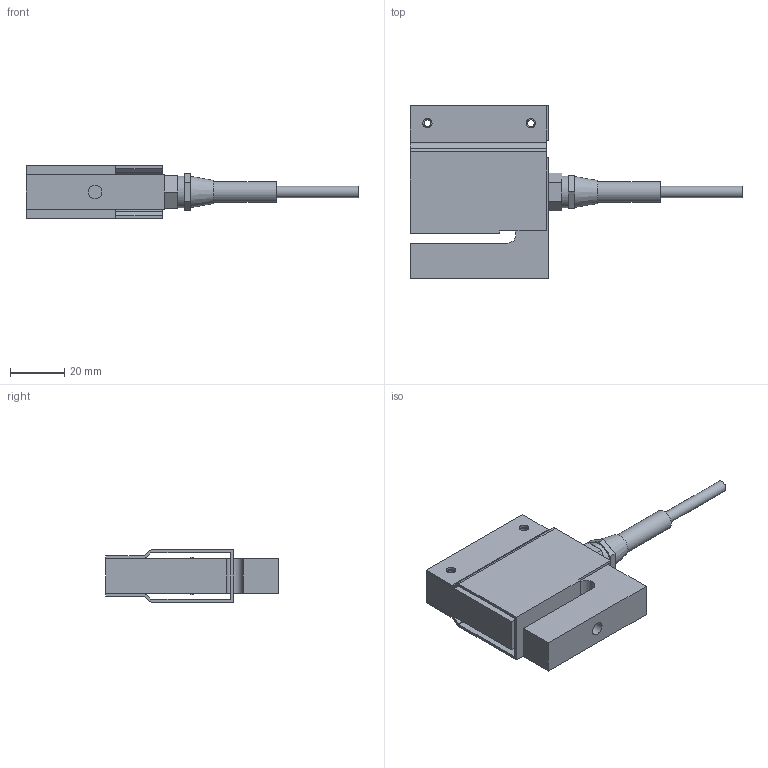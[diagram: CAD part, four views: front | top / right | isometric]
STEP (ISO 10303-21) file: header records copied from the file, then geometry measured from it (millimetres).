
FILE_DESCRIPTION (( 'STEP AP214' ), '1' );
FILE_NAME ('3D_KM1402_50N_200N.STEP', '2013-02-27T14:54:39', ( 'mega' ), ( 'mega' ), 'SwSTEP 2.0', 'SolidWorks 2012', '' );
FILE_SCHEMA (( 'AUTOMOTIVE_DESIGN' ));
Length unit declared in the file: millimetre
Products named in the file (1): 3D_KM1402_50N_200N
Bounding box: 121.9 x 63.5 x 19.2 mm (x, y, z)
Surface area: 23326.7 mm2 (no closed solid volume)
Topology: 0 solids, 3 shells, 73 faces, 194 edges, 130 vertices
Faces by surface type: plane 52, cylinder 20, cone 1
Full cylindrical faces by diameter (mm): 2.5 x2, 3.4 x4, 4.2 x1, 5 x2, 7.5 x1, 11.6 x1
Entity records: 3029 total; most frequent: CARTESIAN_POINT 380, DIRECTION 372, ORIENTED_EDGE 347, EDGE_CURVE 179, VECTOR 134, LINE 134, VERTEX_POINT 127, AXIS2_PLACEMENT_3D 119
